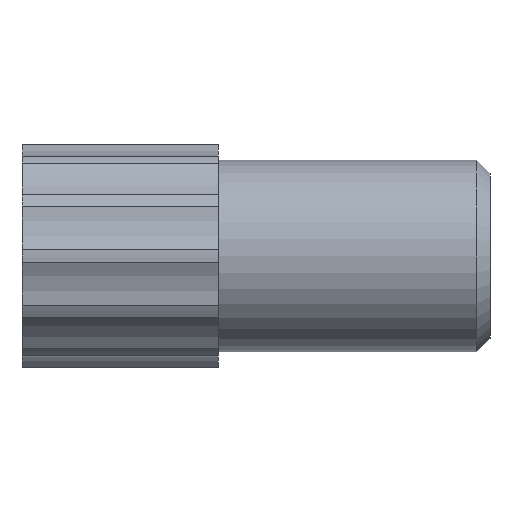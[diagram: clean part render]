
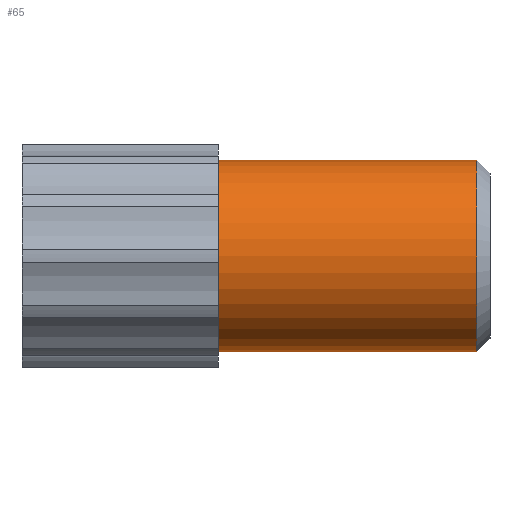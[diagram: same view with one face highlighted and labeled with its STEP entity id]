
A CAD part, front view. The second image highlights one B-rep face of the part: STEP entity #65.
In plain terms, the highlighted cylindrical face has radius 2.15 mm (diameter 4.3 mm), a full revolution.
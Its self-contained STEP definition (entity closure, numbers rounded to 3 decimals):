
#65 = ADVANCED_FACE( '', ( #151, #152 ), #153, .T. );
#151 = FACE_OUTER_BOUND( '', #258, .T. );
#152 = FACE_OUTER_BOUND( '', #259, .T. );
#153 = CYLINDRICAL_SURFACE( '', #260, 2.15 );
#258 = EDGE_LOOP( '', ( #401 ) );
#259 = EDGE_LOOP( '', ( #402 ) );
#260 = AXIS2_PLACEMENT_3D( '', #403, #404, #405 );
#401 = ORIENTED_EDGE( '', *, *, #628, .T. );
#402 = ORIENTED_EDGE( '', *, *, #640, .F. );
#403 = CARTESIAN_POINT( '', ( 17., 0., 0. ) );
#404 = DIRECTION( '', ( 1., 0., 0. ) );
#405 = DIRECTION( '', ( 0., 0., 1. ) );
#628 = EDGE_CURVE( '', #742, #742, #743, .F. );
#640 = EDGE_CURVE( '', #763, #763, #764, .T. );
#742 = VERTEX_POINT( '', #907 );
#743 = CIRCLE( '', #908, 2.15 );
#763 = VERTEX_POINT( '', #932 );
#764 = CIRCLE( '', #933, 2.15 );
#907 = CARTESIAN_POINT( '', ( 10.2, 0., -2.15 ) );
#908 = AXIS2_PLACEMENT_3D( '', #1091, #1092, #1093 );
#932 = CARTESIAN_POINT( '', ( 4.4, 0., 2.15 ) );
#933 = AXIS2_PLACEMENT_3D( '', #1110, #1111, #1112 );
#1091 = CARTESIAN_POINT( '', ( 10.2, 0., 0. ) );
#1092 = DIRECTION( '', ( 1., 0., 0. ) );
#1093 = DIRECTION( '', ( 0., 0., -1. ) );
#1110 = CARTESIAN_POINT( '', ( 4.4, 0., 0. ) );
#1111 = DIRECTION( '', ( -1., 0., 0. ) );
#1112 = DIRECTION( '', ( 0., 0., 1. ) );
